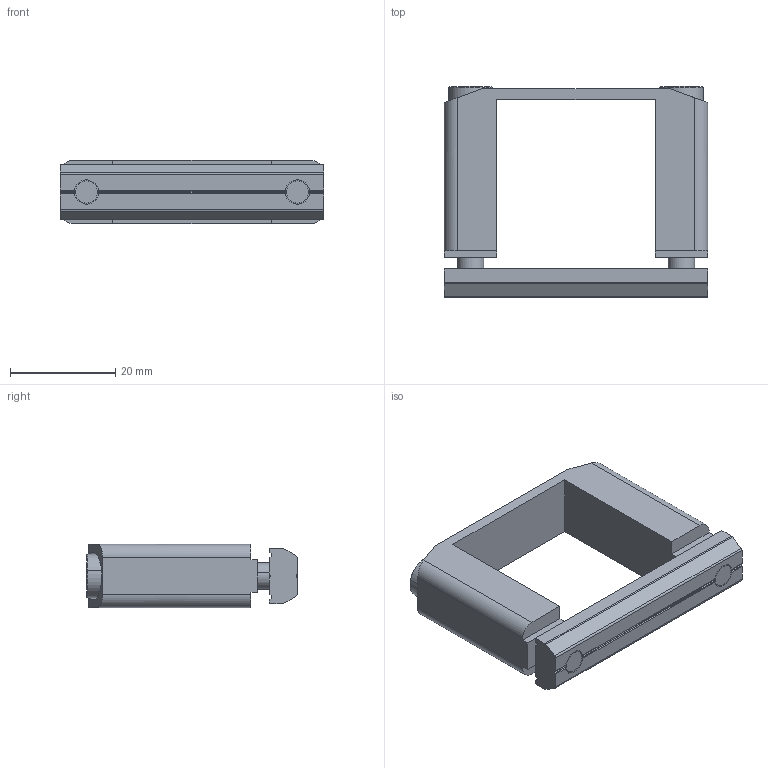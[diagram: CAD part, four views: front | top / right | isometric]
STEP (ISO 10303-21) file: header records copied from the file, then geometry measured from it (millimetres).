
FILE_DESCRIPTION (( 'STEP AP214' ), '1' );
FILE_NAME ('SMBB-3030T.STEP', '2022-12-08T07:30:37', ( '' ), ( '' ), 'SwSTEP 2.0', 'SolidWorks 2018', '' );
FILE_SCHEMA (( 'AUTOMOTIVE_DESIGN' ));
Length unit declared in the file: millimetre
Products named in the file (5): SMBB-3030T; PTN-M5P40; PTS-M5; SMBB-3030; PTC-M5L35
Assembly tree (6 placements, depth 2):
  SMBB-3030T
    SMBB-3030
    PTC-M5L35  x2
    PTN-M5P40
    PTS-M5  x2
Bounding box: 50 x 40 x 12 mm (x, y, z)
Volume: 10754.1 mm3; surface area: 8396.5 mm2
Topology: 6 solids, 6 shells, 465 faces, 1359 edges, 902 vertices
Faces by surface type: plane 390, cylinder 61, cone 14
Entity records: 9685 total; most frequent: CARTESIAN_POINT 1849, ORIENTED_EDGE 1650, DIRECTION 1587, EDGE_CURVE 825, VERTEX_POINT 548, AXIS2_PLACEMENT_3D 534, LINE 519, VECTOR 519
